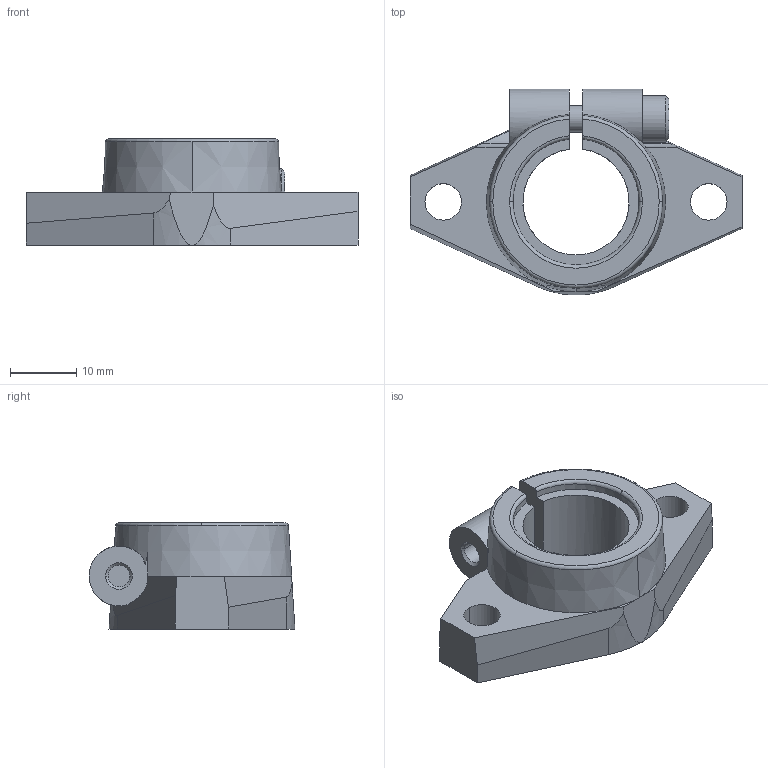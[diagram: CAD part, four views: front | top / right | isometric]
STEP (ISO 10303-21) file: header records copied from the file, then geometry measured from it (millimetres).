
FILE_DESCRIPTION (( 'STEP AP214' ), '1' );
FILE_NAME ('2.7122 Akselin päätykiinnike SHF16.STEP', '2024-06-04T12:29:11', ( '' ), ( '' ), 'SwSTEP 2.0', 'SolidWorks 2024', '' );
FILE_SCHEMA (( 'AUTOMOTIVE_DESIGN' ));
Length unit declared in the file: millimetre
Products named in the file (1): 2.7122 Akselin päätykiinnike SHF16
Bounding box: 50 x 31 x 16 mm (x, y, z)
Volume: 8833.7 mm3; surface area: 4515.7 mm2
Topology: 1 solids, 1 shells, 78 faces, 210 edges, 137 vertices
Faces by surface type: plane 35, cylinder 28, torus 9, cone 6
Entity records: 3446 total; most frequent: CARTESIAN_POINT 602, ORIENTED_EDGE 420, DIRECTION 413, EDGE_CURVE 210, AXIS2_PLACEMENT_3D 156, VERTEX_POINT 137, VECTOR 101, LINE 101
